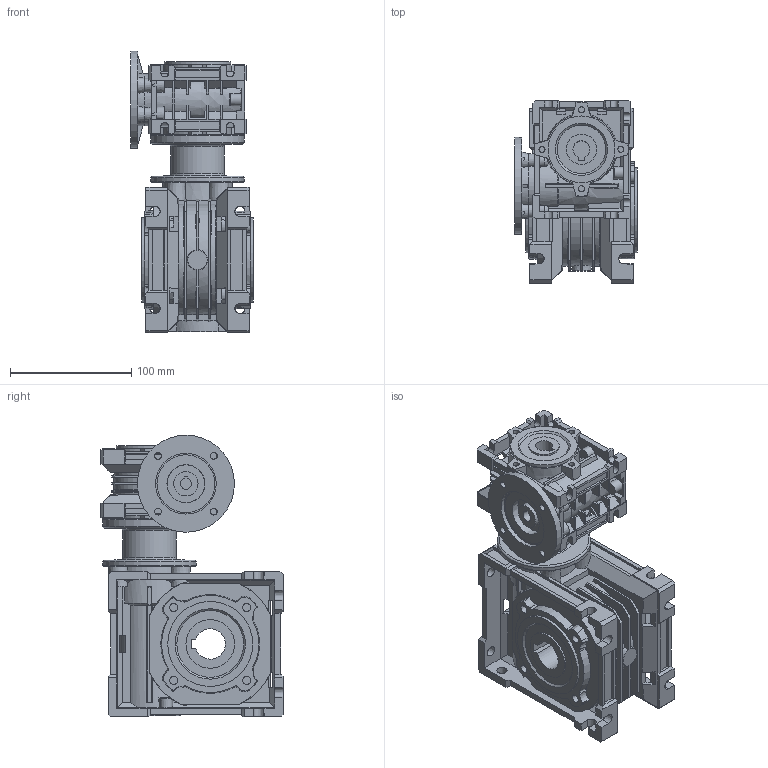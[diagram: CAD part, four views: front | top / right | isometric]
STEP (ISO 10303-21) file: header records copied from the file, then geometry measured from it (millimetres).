
FILE_DESCRIPTION( ( 'Unknown' ), '1' );
FILE_NAME( 'E:/services/configuratordownloads/customers/TRANSTECNO/CMM/download/2F67445161ED373269C1444CF9BCCBC9/STEP/2F67445161ED373269C1444CF9BCCBC9.3d.stp', 'Unknown', ( 'Unknown' ), ( 'Unknown' ), 'PSStep 10.1', 'Unknown', ' ' );
FILE_SCHEMA( ( 'AUTOMOTIVE_DESIGN { 1 0 10303 214 1 1 1 1 }' ) );
Length unit declared in the file: millimetre
Products named in the file (1): ce2305cc-a826-4a80-b63d-6e448be705f6
Bounding box: 101 x 150 x 231.97 mm (x, y, z)
Volume: 1305716.5 mm3; surface area: 245501.3 mm2
Topology: 1 solids, 15 shells, 1295 faces, 3617 edges, 2369 vertices
Faces by surface type: plane 983, cone 241, cylinder 39, bspline 28, torus 4
Full cylindrical faces by diameter (mm): 20 x2, 25 x2, 37 x1, 40 x2, 44 x1, 47 x1, 50 x1, 55 x2, 55.1 x1, 70 x2, 77 x2
Entity records: 53683 total; most frequent: CARTESIAN_POINT 11063, ORIENTED_EDGE 6980, DIRECTION 6250, EDGE_CURVE 3490, VERTEX_POINT 2322, LINE 2226, VECTOR 2226, AXIS2_PLACEMENT_3D 2012
